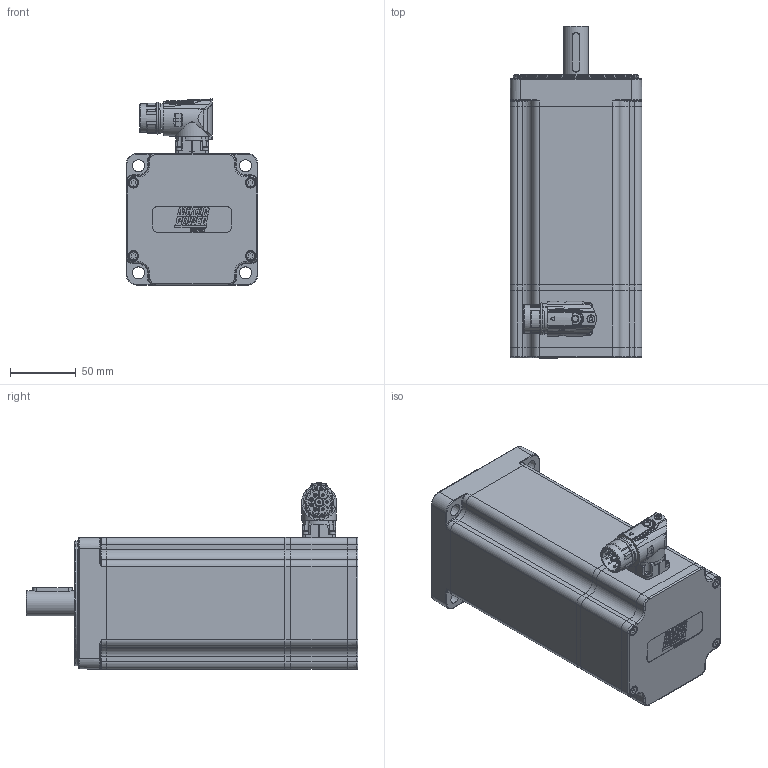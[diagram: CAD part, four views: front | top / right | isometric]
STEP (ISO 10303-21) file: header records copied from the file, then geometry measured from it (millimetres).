
FILE_DESCRIPTION(/* description */ ('Unknown'),/* implementation_level */ '2;1');
FILE_NAME(/* name */ 'TC4-100.4B.XX.X.2.M1.0.1.C21.31.80 Q0BQ19',/* time_stamp */ '2026-03-04T16:56:28+01:00',/* author */ ('Unknown'),/* organization */ ('Unknown'),/* preprocessor_version */ 'ST-DEVELOPER v19.4',/* originating_system */ 'Solid Edge',/* authorisation */ 'Unknown');
FILE_SCHEMA (('AUTOMOTIVE_DESIGN {1 0 10303 214 3 1 1}'));
Products named in the file (14): Q0BQ19 4B M1 VUOTO; 005911000180; 005911000185; 003103040221; 005113000500; 003107003287; 003151003169; 005119000312; 003155002195; 005911000824; 005911000208; 007117000456; 003003200440; 003251040721
Assembly tree (25 placements, depth 2):
  Q0BQ19 4B M1 VUOTO
    005911000180  x4
    005911000185  x4
    003103040221
    005113000500
    003107003287
    003151003169
    005119000312
    003155002195
    005911000824  x4
    005911000208  x4
    007117000456
    003003200440
    003251040721
Bounding box: 100 x 252 x 141.5 mm (x, y, z)
Volume: 733292.1 mm3; surface area: 275304.9 mm2
Topology: 27 solids, 27 shells, 1808 faces, 4498 edges, 2858 vertices
Faces by surface type: plane 838, cylinder 410, bspline 228, cone 183, torus 99, sphere 50
Full cylindrical faces by diameter (mm): 1 x4, 1.4 x4, 2 x4, 2.013 x4, 2.459 x2, 2.5 x4, 2.8 x4, 3 x8, 3.2 x1, 3.242 x32, 3.3 x1, 3.36 x4, 4 x13, 4.5 x21, 4.7 x4, 4.917 x1, 5.5 x1, 5.8 x1, 5.9 x1, 6 x1, 6.4 x1, 6.8 x1, 7 x8, 8 x4, 8.004 x4, 10 x1, 16.99 x1, 17 x1, 17.4 x1, 19 x1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
Entity records: 63129 total; most frequent: CARTESIAN_POINT 16624, ORIENTED_EDGE 7392, DIRECTION 6914, EDGE_CURVE 3696, AXIS2_PLACEMENT_3D 2589, VERTEX_POINT 2534, FACE_BOUND 2138, EDGE_LOOP 2117
